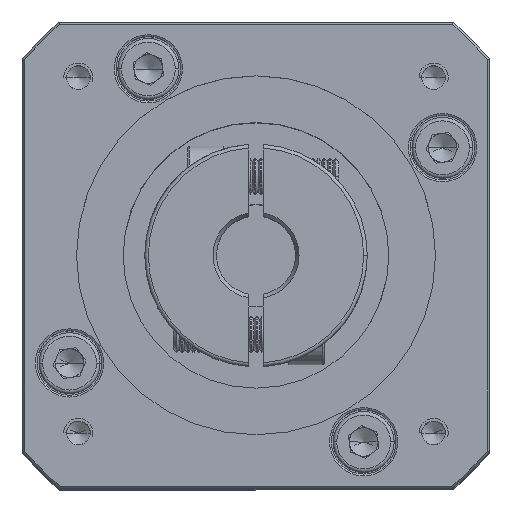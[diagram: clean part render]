
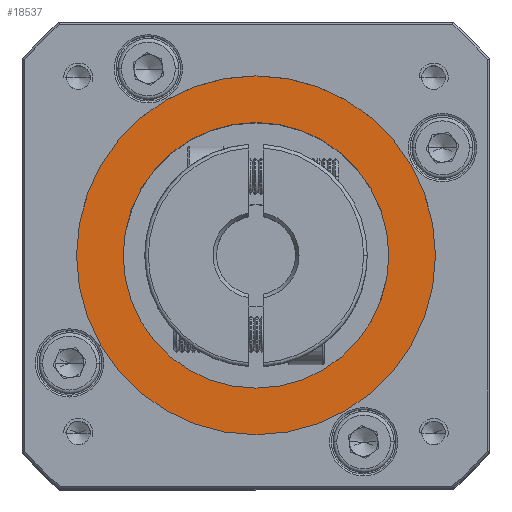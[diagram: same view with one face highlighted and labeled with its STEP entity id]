
A CAD part, top view. The second image highlights one B-rep face of the part: STEP entity #18537.
In plain terms, the highlighted planar face has unit normal (0, 0, 1).
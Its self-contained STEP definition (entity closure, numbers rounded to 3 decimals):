
#121 = CIRCLE ( 'NONE', #4275, 25. ) ;
#1640 = AXIS2_PLACEMENT_3D ( 'NONE', #45042, #15338, #110630 ) ;
#4003 = CARTESIAN_POINT ( 'NONE',  ( -24.543, 43.056, -2.01 ) ) ;
#4275 = AXIS2_PLACEMENT_3D ( 'NONE', #4003, #44487, #25663 ) ;
#4740 = VERTEX_POINT ( 'NONE', #118954 ) ;
#7130 = CARTESIAN_POINT ( 'NONE',  ( -24.543, 43.056, -2.01 ) ) ;
#10219 = AXIS2_PLACEMENT_3D ( 'NONE', #17060, #25885, #65468 ) ;
#10387 = EDGE_LOOP ( 'NONE', ( #102771, #109686 ) ) ;
#12207 = EDGE_CURVE ( 'NONE', #78969, #4740, #121, .T. ) ;
#13699 = EDGE_LOOP ( 'NONE', ( #118675, #47443 ) ) ;
#15338 = DIRECTION ( 'NONE',  ( 0., 0., 1. ) ) ;
#16524 = VERTEX_POINT ( 'NONE', #41624 ) ;
#17060 = CARTESIAN_POINT ( 'NONE',  ( -24.543, 43.056, -2.01 ) ) ;
#18537 = ADVANCED_FACE ( 'NONE', ( #85728, #120096 ), #34695, .T. ) ;
#25663 = DIRECTION ( 'NONE',  ( 1., 0., 0. ) ) ;
#25885 = DIRECTION ( 'NONE',  ( 0., 0., -1. ) ) ;
#34695 = PLANE ( 'NONE',  #106334 ) ;
#41624 = CARTESIAN_POINT ( 'NONE',  ( -6.043, 43.056, -2.01 ) ) ;
#44487 = DIRECTION ( 'NONE',  ( 0., 0., 1. ) ) ;
#44488 = DIRECTION ( 'NONE',  ( 1., 0., 0. ) ) ;
#45042 = CARTESIAN_POINT ( 'NONE',  ( -24.543, 43.056, -2.01 ) ) ;
#47443 = ORIENTED_EDGE ( 'NONE', *, *, #115598, .T. ) ;
#53563 = AXIS2_PLACEMENT_3D ( 'NONE', #100479, #101720, #44488 ) ;
#54686 = DIRECTION ( 'NONE',  ( 0., 0., 1. ) ) ;
#65468 = DIRECTION ( 'NONE',  ( 1., 0., 0. ) ) ;
#66287 = CIRCLE ( 'NONE', #10219, 18.5 ) ;
#68560 = CARTESIAN_POINT ( 'NONE',  ( 0.457, 43.056, -2.01 ) ) ;
#78969 = VERTEX_POINT ( 'NONE', #68560 ) ;
#81769 = VERTEX_POINT ( 'NONE', #108815 ) ;
#82598 = EDGE_CURVE ( 'NONE', #16524, #81769, #66287, .T. ) ;
#85728 = FACE_OUTER_BOUND ( 'NONE', #10387, .T. ) ;
#86004 = CIRCLE ( 'NONE', #53563, 18.5 ) ;
#96472 = EDGE_CURVE ( 'NONE', #4740, #78969, #109429, .T. ) ;
#100479 = CARTESIAN_POINT ( 'NONE',  ( -24.543, 43.056, -2.01 ) ) ;
#101720 = DIRECTION ( 'NONE',  ( 0., 0., -1. ) ) ;
#102771 = ORIENTED_EDGE ( 'NONE', *, *, #12207, .T. ) ;
#106334 = AXIS2_PLACEMENT_3D ( 'NONE', #7130, #54686, #111154 ) ;
#108815 = CARTESIAN_POINT ( 'NONE',  ( -43.043, 43.056, -2.01 ) ) ;
#109429 = CIRCLE ( 'NONE', #1640, 25. ) ;
#109686 = ORIENTED_EDGE ( 'NONE', *, *, #96472, .T. ) ;
#110630 = DIRECTION ( 'NONE',  ( 1., 0., 0. ) ) ;
#111154 = DIRECTION ( 'NONE',  ( 1., 0., 0. ) ) ;
#115598 = EDGE_CURVE ( 'NONE', #81769, #16524, #86004, .T. ) ;
#118675 = ORIENTED_EDGE ( 'NONE', *, *, #82598, .T. ) ;
#118954 = CARTESIAN_POINT ( 'NONE',  ( -49.543, 43.056, -2.01 ) ) ;
#120096 = FACE_BOUND ( 'NONE', #13699, .T. ) ;
